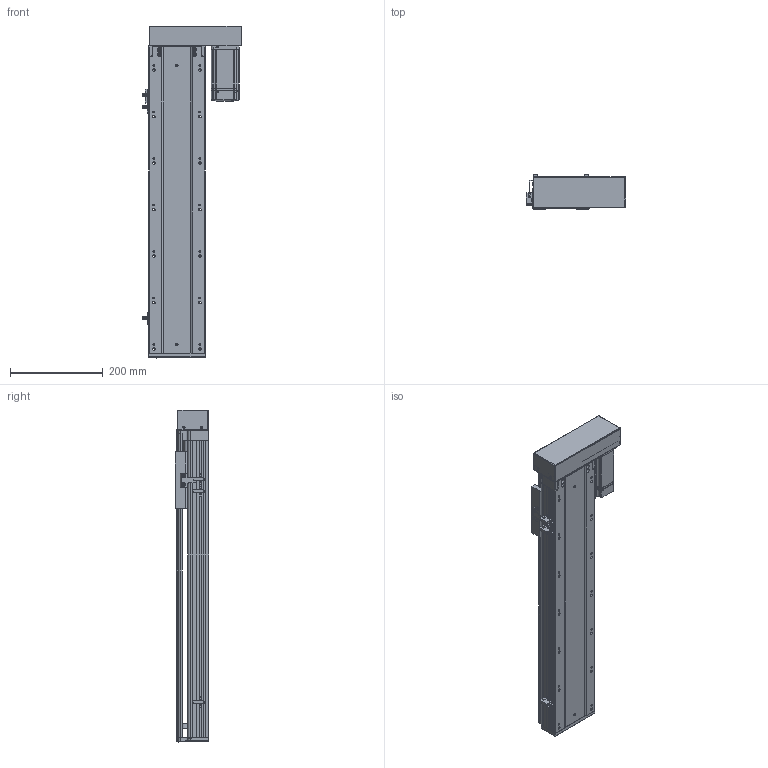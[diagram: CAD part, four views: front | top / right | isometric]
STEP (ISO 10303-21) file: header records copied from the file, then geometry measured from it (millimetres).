
FILE_DESCRIPTION (( 'STEP AP203' ), '1' );
FILE_NAME ('RY120-L2020-300-RK.SLDASM_450.step', '2021-03-12T07:14:11', ( '盈信电脑' ), ( '东莞市道滘镇水果街19号' ), 'SwSTEP 2.0', 'SolidWorks 2012', '' );
FILE_SCHEMA (( 'CONFIG_CONTROL_DESIGN' ));
Products named in the file (15): RY120-L2020-300-RK.SLDASM_450; RY120蛌殏萇儂欶; 侂狟400W侜督萇儂; 15; RY120-400W萇儂傷-酘衵殏_450; 滅袉蝶18-24; RY120外置感应片(140共用）; RY120转拆电端丝杆支撑座(20丝杆，7002轴承); RY120酘殏萇儂假蚾啣; RY120綴裔啣; 滅袉蝶18-10; RY120臏賑輸(20蹟譫); 覜茼ん672; RY120-300-RK蛌殏倰第奻裔啣_450; RY120-300-RK蛌殏倰第菁釱_450
Assembly tree (17 placements, depth 4):
  RY120-L2020-300-RK.SLDASM_450
    RY120-300-RK蛌殏倰第菁釱_450
    RY120-300-RK蛌殏倰第奻裔啣_450
    RY120臏賑輸(20蹟譫)
    RY120綴裔啣
    覜茼ん672  x3
    滅袉蝶18-10
    滅袉蝶18-24  x2
    RY120外置感应片(140共用）
    RY120转拆电端丝杆支撑座(20丝杆，7002轴承)
    RY120-400W萇儂傷-酘衵殏_450
      RY120酘殏萇儂假蚾啣
      侂狟400W侜督萇儂
        15
      RY120蛌殏萇儂欶
Bounding box: 214.2 x 73 x 714 mm (x, y, z)
Volume: 2340341.8 mm3; surface area: 840057.2 mm2
Topology: 16 solids, 16 shells, 2396 faces, 6583 edges, 4222 vertices
Faces by surface type: plane 1216, cylinder 876, cone 199, bspline 105
Entity records: 79271 total; most frequent: CARTESIAN_POINT 22225, ORIENTED_EDGE 11894, DIRECTION 10971, EDGE_CURVE 5947, VERTEX_POINT 3890, LINE 3713, VECTOR 3713, AXIS2_PLACEMENT_3D 3629
